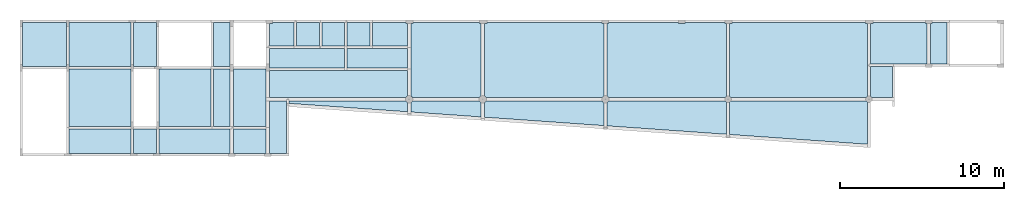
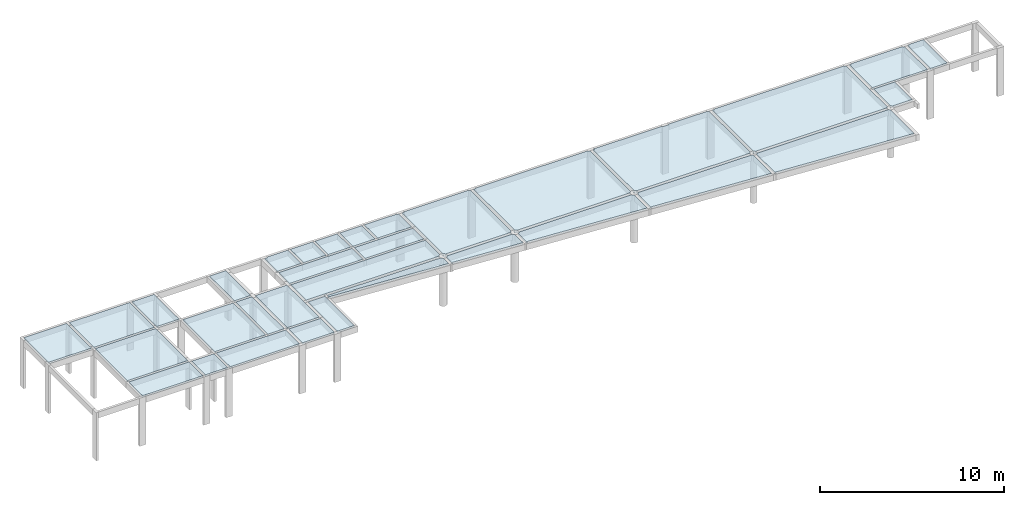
# One storey, part 3 of 3: 33 slabs.
"""IFC2X3 building model written with IfcOpenShell, lengths in centimetres."""

from ifc_helpers import new_model, si_unit, derived_unit, frame, origin, origin_with_axes, place, context, project, spatial, polyline, outline, extrude, material, element, save


model = new_model("IFC2X3")

# Units and contexts
model_context = context("Model", 3, precision=1e-05, world=origin_with_axes(), identifier="Body")
ifc_project = project(units=[si_unit("LENGTHUNIT", "METRE", prefix="CENTI"), si_unit("VOLUMEUNIT", "CUBIC_METRE"), si_unit("AREAUNIT", "SQUARE_METRE"), si_unit("POWERUNIT", "WATT"), si_unit("LUMINOUSFLUXUNIT", "LUMEN"), si_unit("ELECTRICCURRENTUNIT", "AMPERE"), si_unit("PRESSUREUNIT", "PASCAL", prefix="KILO"), si_unit("MASSUNIT", "GRAM", prefix="KILO"), si_unit("PLANEANGLEUNIT", "RADIAN"), derived_unit("VOLUMETRICFLOWRATEUNIT", [(si_unit("LENGTHUNIT", "METRE"), 3), (si_unit("TIMEUNIT", "SECOND"), -1)])], contexts=[model_context])

# Site, building, storey
site_placement = place(None, origin_with_axes())
site = spatial("IfcSite", under=ifc_project, at=site_placement)
building_placement = place(site_placement, origin())
building = spatial("IfcBuilding", under=site, at=building_placement)
placement_1 = place(building_placement, origin_with_axes())
placement_2 = place(placement_1, frame((0.0, 0.0, 80.0), z_axis=(0.0, 0.0, 1.0), x_axis=(1.0, 0.0, 0.0)))
storey_placement = place(placement_2, frame((0.0, 0.0, 320.0), z_axis=(0.0, 0.0, 1.0), x_axis=(1.0, 0.0, 0.0)))
storey = spatial("IfcBuildingStorey", under=building, at=storey_placement, Name="03. Pavimento Superior", CompositionType="ELEMENT", Elevation=400.0)

# Slabs
ifc_material = material(Name="Concreto")
slab_1_placement = place(storey_placement, frame((-1590.46, -424.11, 0.0), z_axis=(0.0, 0.0, 1.0), x_axis=(1.0, 0.0, 0.0)))
element("IfcSlab", 1, at=slab_1_placement, inside=storey, material=ifc_material, Name="L1", PredefinedType="FLOOR", context=model_context, shape_type="SolidModel", body=[
    extrude(outline(polyline([(134.999, -135.0), (135.0, 135.0), (-134.999, 135.0), (-135.0, -134.999), (134.999, -135.0), (134.999, -135.0)])), frame((0.0, 0.0, -12.0), z_axis=(0.0, 0.0, 1.0), x_axis=(1.0, 0.0, 0.0)), (0.0, 0.0, 1.0), 12.0),
])
slab_2_placement = place(storey_placement, frame((863.67, -519.0355, 0.0), z_axis=(0.0, 0.0, 1.0), x_axis=(1.0, 0.0, 0.0)))
element("IfcSlab", 2, at=slab_2_placement, inside=storey, material=ifc_material, Name="L10", PredefinedType="FLOOR", context=model_context, shape_type="SolidModel", body=[
    extrude(outline(polyline([(205.51, -228.675), (209.09, -224.014), (213.75, -220.435), (215.0, -219.919), (215.0, 224.924), (204.869, 224.925), (204.869, 229.924), (-200.13, 229.924), (-200.13, 224.925), (-215.0, 224.924), (-215.0, -219.919), (-213.75, -220.435), (-209.089, -224.014), (-205.51, -228.675), (-204.994, -229.925), (204.994, -229.925), (205.51, -228.675), (205.51, -228.675)])), frame((0.0, 0.0005, -20.0), z_axis=(0.0, 0.0, 1.0), x_axis=(1.0, 0.0, 0.0)), (0.0, 0.0, 1.0), 20.0),
])
slab_3_placement = place(storey_placement, frame((1463.6705, -519.035, 0.0), z_axis=(0.0, 0.0, 1.0), x_axis=(1.0, 0.0, 0.0)))
element("IfcSlab", 3, at=slab_3_placement, inside=storey, material=ifc_material, Name="L11", PredefinedType="FLOOR", context=model_context, shape_type="SolidModel", body=[
    extrude(outline(polyline([(355.51, -228.675), (359.09, -224.014), (363.75, -220.435), (365.0, -219.919), (364.999, 224.924), (354.869, 224.925), (354.869, 229.925), (-350.129, 229.925), (-350.13, 224.925), (-364.999, 224.924), (-364.999, -219.919), (-363.749, -220.435), (-359.09, -224.014), (-355.509, -228.675), (-354.994, -229.925), (354.994, -229.925), (355.51, -228.675), (355.51, -228.675)])), frame((-0.0005, 0.0, -20.0), z_axis=(0.0, 0.0, 1.0), x_axis=(1.0, 0.0, 0.0)), (0.0, 0.0, 1.0), 20.0),
])
slab_4_placement = place(storey_placement, frame((2213.6705, -519.035, 0.0), z_axis=(0.0, 0.0, 1.0), x_axis=(1.0, 0.0, 0.0)))
element("IfcSlab", 4, at=slab_4_placement, inside=storey, material=ifc_material, Name="L12", PredefinedType="FLOOR", context=model_context, shape_type="SolidModel", body=[
    extrude(outline(polyline([(360.86, -225.785), (365.0, -222.605), (365.0, 224.925), (354.869, 224.925), (354.87, 229.924), (111.87, 229.925), (111.869, 224.925), (71.869, 224.925), (71.87, 229.925), (-355.129, 229.925), (-355.13, 224.925), (-364.999, 224.924), (-364.999, -219.919), (-363.749, -220.435), (-359.09, -224.014), (-355.509, -228.675), (-354.994, -229.925), (357.679, -229.925), (360.86, -225.785), (360.86, -225.785)])), frame((-0.0005, 0.0, -20.0), z_axis=(0.0, 0.0, 1.0), x_axis=(1.0, 0.0, 0.0)), (0.0, 0.0, 1.0), 20.0),
])
slab_5_placement = place(storey_placement, frame((3019.1705, -519.035, 0.0), z_axis=(0.0, 0.0, 1.0), x_axis=(1.0, 0.0, 0.0)))
element("IfcSlab", 5, at=slab_5_placement, inside=storey, material=ifc_material, Name="L13", PredefinedType="FLOOR", context=model_context, shape_type="SolidModel", body=[
    extrude(outline(polyline([(416.36, -225.785), (420.5, -222.605), (420.429, -32.575), (420.37, 224.924), (410.369, 224.925), (410.369, 229.925), (-405.63, 229.924), (-405.63, 224.925), (-420.499, 224.925), (-420.499, -222.605), (-416.36, -225.785), (-413.18, -229.925), (413.179, -229.925), (416.36, -225.785), (416.36, -225.785)])), frame((-0.0005, 0.0, -20.0), z_axis=(0.0, 0.0, 1.0), x_axis=(1.0, 0.0, 0.0)), (0.0, 0.0, 1.0), 20.0),
])
slab_6_placement = place(storey_placement, frame((3632.79, -416.61, 0.0), z_axis=(0.0, 0.0, 1.0), x_axis=(1.0, 0.0, 0.0)))
element("IfcSlab", 6, at=slab_6_placement, inside=storey, material=ifc_material, Name="L14", PredefinedType="FLOOR", context=model_context, shape_type="SolidModel", body=[
    extrude(outline(polyline([(173.24865451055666, -127.499), (173.24865451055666, 122.5), (163.24865451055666, 122.499), (163.24965451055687, 127.5), (-158.24934548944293, 127.499), (-158.25034548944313, 122.499), (-173.24934548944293, 122.499), (-173.19134548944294, -127.5), (173.24865451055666, -127.499), (173.24865451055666, -127.499)])), frame((0.000345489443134, 0.0, -12.0), z_axis=(0.0, 0.0, 1.0), x_axis=(1.0, 0.0, 0.0)), (0.0, 0.0, 1.0), 12.0),
])
slab_7_placement = place(storey_placement, frame((3877.29, -416.61, 0.0), z_axis=(0.0, 0.0, 1.0), x_axis=(1.0, 0.0, 0.0)))
element("IfcSlab", 7, at=slab_7_placement, inside=storey, material=ifc_material, Name="L15", PredefinedType="FLOOR", context=model_context, shape_type="SolidModel", body=[
    extrude(outline(polyline([(51.25, -127.046), (51.25, 127.5), (-41.25, 127.499), (-41.25, 122.499), (-51.25, 122.5), (-51.25, -127.499), (-41.25, -127.5), (51.25, -127.046), (51.25, -127.046)])), frame((0.0, 0.0, -12.0), z_axis=(0.0, 0.0, 1.0), x_axis=(1.0, 0.0, 0.0)), (0.0, 0.0, 1.0), 12.0),
])
slab_8_placement = place(storey_placement, frame((14.5395, -507.86, 0.0), z_axis=(0.0, 0.0, 1.0), x_axis=(1.0, 0.0, 0.0)))
element("IfcSlab", 8, at=slab_8_placement, inside=storey, material=ifc_material, Name="L16", PredefinedType="FLOOR", context=model_context, shape_type="SolidModel", body=[
    extrude(outline(polyline([(229.999, 58.75), (-230.0, 58.749), (-230.0, -58.75), (229.999, -58.75), (229.999, 58.75), (229.999, 58.75)])), frame((0.0005, 0.0, -12.0), z_axis=(0.0, 0.0, 1.0), x_axis=(1.0, 0.0, 0.0)), (0.0, 0.0, 1.0), 12.0),
])
slab_9_placement = place(storey_placement, frame((444.105, -507.8605, 0.0), z_axis=(0.0, 0.0, 1.0), x_axis=(1.0, 0.0, 0.0)))
element("IfcSlab", 9, at=slab_9_placement, inside=storey, material=ifc_material, Name="L17", PredefinedType="FLOOR", context=model_context, shape_type="SolidModel", body=[
    extrude(outline(polyline([(184.564, 58.749), (-184.564, 58.749), (-184.564, -58.75), (184.564, -58.75), (184.564, 58.749), (184.564, 58.749)])), frame((0.0, 0.0005, -12.0), z_axis=(0.0, 0.0, 1.0), x_axis=(1.0, 0.0, 0.0)), (0.0, 0.0, 1.0), 12.0),
])
slab_10_placement = place(storey_placement, frame((-1250.46, -749.11, 0.0), z_axis=(0.0, 0.0, 1.0), x_axis=(1.0, 0.0, 0.0)))
element("IfcSlab", 10, at=slab_10_placement, inside=storey, material=ifc_material, Name="L18", PredefinedType="FLOOR", context=model_context, shape_type="SolidModel", body=[
    extrude(outline(polyline([(190.0, -175.0), (189.999, 174.999), (-190.0, 175.0), (-190.0, -175.0), (190.0, -175.0), (190.0, -175.0)])), frame((0.0, 0.0, -12.0), z_axis=(0.0, 0.0, 1.0), x_axis=(1.0, 0.0, 0.0)), (0.0, 0.0, 1.0), 12.0),
])
slab_11_placement = place(storey_placement, frame((-731.7105, -749.11, 0.0), z_axis=(0.0, 0.0, 1.0), x_axis=(1.0, 0.0, 0.0)))
element("IfcSlab", 11, at=slab_11_placement, inside=storey, material=ifc_material, Name="L19", PredefinedType="FLOOR", context=model_context, shape_type="SolidModel", body=[
    extrude(outline(polyline([(158.749, 175.0), (-158.75, 174.999), (-158.75, -175.0), (158.749, -175.0), (158.749, 175.0), (158.749, 175.0)])), frame((0.0005, 0.0, -12.0), z_axis=(0.0, 0.0, 1.0), x_axis=(1.0, 0.0, 0.0)), (0.0, 0.0, 1.0), 12.0),
])
slab_12_placement = place(storey_placement, frame((-1250.4605, -424.1105, 0.0), z_axis=(0.0, 0.0, 1.0), x_axis=(1.0, 0.0, 0.0)))
element("IfcSlab", 12, at=slab_12_placement, inside=storey, material=ifc_material, Name="L2", PredefinedType="FLOOR", context=model_context, shape_type="SolidModel", body=[
    extrude(outline(polyline([(189.999, 134.53), (177.499, 134.53), (177.5, 134.999), (-190.0, 134.999), (-189.999, -135.0), (189.999, -135.0), (189.999, 134.53), (189.999, 134.53)])), frame((0.0005, 0.0005, -12.0), z_axis=(0.0, 0.0, 1.0), x_axis=(1.0, 0.0, 0.0)), (0.0, 0.0, 1.0), 12.0),
])
slab_13_placement = place(storey_placement, frame((-506.7095, -749.1095, 0.0), z_axis=(0.0, 0.0, 1.0), x_axis=(1.0, 0.0, 0.0)))
element("IfcSlab", 13, at=slab_13_placement, inside=storey, material=ifc_material, Name="L20", PredefinedType="FLOOR", context=model_context, shape_type="SolidModel", body=[
    extrude(outline(polyline([(51.249, -174.999), (51.25, 175.0), (-51.249, 175.0), (-51.249, -174.999), (51.249, -174.999), (51.249, -174.999)])), frame((-0.0005, -0.0005, -12.0), z_axis=(0.0, 0.0, 1.0), x_axis=(1.0, 0.0, 0.0)), (0.0, 0.0, 1.0), 12.0),
])
slab_14_placement = place(storey_placement, frame((-335.4595, -749.11, 0.0), z_axis=(0.0, 0.0, 1.0), x_axis=(1.0, 0.0, 0.0)))
element("IfcSlab", 14, at=slab_14_placement, inside=storey, material=ifc_material, Name="L21", PredefinedType="FLOOR", context=model_context, shape_type="SolidModel", body=[
    extrude(outline(polyline([(99.999, -175.0), (100.0, 175.0), (-99.999, 175.0), (-99.999, -175.0), (99.999, -175.0), (99.999, -175.0)])), frame((-0.0005, 0.0, -12.0), z_axis=(0.0, 0.0, 1.0), x_axis=(1.0, 0.0, 0.0)), (0.0, 0.0, 1.0), 12.0),
])
slab_15_placement = place(storey_placement, frame((206.605, -665.2855, 0.0), z_axis=(0.0, 0.0, 1.0), x_axis=(1.0, 0.0, 0.0)))
element("IfcSlab", 15, at=slab_15_placement, inside=storey, material=ifc_material, Name="L22", PredefinedType="FLOOR", context=model_context, shape_type="SolidModel", body=[
    extrude(outline(polyline([(412.574, -82.425), (416.155, -77.764), (420.814, -74.185), (422.064, -73.669), (422.065, 83.674), (-422.064, 83.674), (-422.065, -83.674), (412.059, -83.675), (412.574, -82.425), (412.574, -82.425)])), frame((0.0, 0.0005, -12.0), z_axis=(0.0, 0.0, 1.0), x_axis=(1.0, 0.0, 0.0)), (0.0, 0.0, 1.0), 12.0),
])
slab_16_placement = place(storey_placement, frame((3526.071, -654.035, 0.0), z_axis=(0.0, 0.0, 1.0), x_axis=(1.0, 0.0, 0.0)))
element("IfcSlab", 16, at=slab_16_placement, inside=storey, material=ifc_material, Name="L23", PredefinedType="FLOOR", context=model_context, shape_type="SolidModel", body=[
    extrude(outline(polyline([(66.46764010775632, -94.924), (66.46764010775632, 94.924), (-66.46835989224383, 94.925), (-66.40035989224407, -87.604), (-62.261359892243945, -90.785), (-59.08135989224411, -94.925), (66.46764010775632, -94.924), (66.46764010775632, -94.924)])), frame((0.000359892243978, 0.0, -12.0), z_axis=(0.0, 0.0, 1.0), x_axis=(1.0, 0.0, 0.0)), (0.0, 0.0, 1.0), 12.0),
])
slab_17_placement = place(storey_placement, frame((-162.6105, -929.0305, 0.0), z_axis=(0.0, 0.0, 1.0), x_axis=(1.0, 0.0, 0.0)))
element("IfcSlab", 17, at=slab_17_placement, inside=storey, material=ifc_material, Name="L24", PredefinedType="FLOOR", context=model_context, shape_type="SolidModel", body=[
    extrude(outline(polyline([(52.849, 135.37), (52.349, 160.069), (-52.85, 160.069), (-52.85, -160.069), (52.167, -160.07), (52.849, 135.37), (52.849, 135.37)])), frame((0.0005, 0.0005, -12.0), z_axis=(0.0, 0.0, 1.0), x_axis=(1.0, 0.0, 0.0)), (0.0, 0.0, 1.0), 12.0),
])
slab_18_placement = place(storey_placement, frame((266.708, -802.072, 0.0), z_axis=(0.0, 0.0, 1.0), x_axis=(1.0, 0.0, 0.0)))
element("IfcSlab", 18, at=slab_18_placement, inside=storey, material=ifc_material, Name="L25", PredefinedType="FLOOR", context=model_context, shape_type="SolidModel", body=[
    extrude(outline(polyline([(361.96244515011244, 23.106215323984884), (360.71144515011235, 23.62121532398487), (356.05244515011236, 27.20121532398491), (352.47144515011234, 31.86121532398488), (351.95644515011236, 33.112215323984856), (-361.96155484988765, 33.112215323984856), (-361.65655484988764, 17.985215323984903), (361.96244515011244, -33.11178467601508), (361.96244515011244, 23.106215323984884), (361.96244515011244, 23.106215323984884)])), frame((-0.000445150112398, -0.000215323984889, -12.0), z_axis=(0.0, 0.0, 1.0), x_axis=(1.0, 0.0, 0.0)), (0.0, 0.0, 1.0), 12.0),
])
slab_19_placement = place(storey_placement, frame((863.6705, -817.9625, 0.0), z_axis=(0.0, 0.0, 1.0), x_axis=(1.0, 0.0, 0.0)))
element("IfcSlab", 19, at=slab_19_placement, inside=storey, material=ifc_material, Name="L26", PredefinedType="FLOOR", context=model_context, shape_type="SolidModel", body=[
    extrude(outline(polyline([(215.0, 38.996171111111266), (213.75, 39.51117111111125), (209.09, 43.091171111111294), (205.51, 47.75117111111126), (204.994, 49.00117111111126), (-204.994, 49.00117111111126), (-205.51, 47.75117111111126), (-209.089, 43.091171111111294), (-213.75, 39.51117111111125), (-214.999, 38.996171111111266), (-214.999, -18.63382888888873), (215.0, -49.00182888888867), (215.0, 38.996171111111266), (215.0, 38.996171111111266)])), frame((-0.0005, 0.000328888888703, -12.0), z_axis=(0.0, 0.0, 1.0), x_axis=(1.0, 0.0, 0.0)), (0.0, 0.0, 1.0), 12.0),
])
slab_20_placement = place(storey_placement, frame((1463.67, -844.447, 0.0), z_axis=(0.0, 0.0, 1.0), x_axis=(1.0, 0.0, 0.0)))
element("IfcSlab", 20, at=slab_20_placement, inside=storey, material=ifc_material, Name="L27", PredefinedType="FLOOR", context=model_context, shape_type="SolidModel", body=[
    extrude(outline(polyline([(365.0, 65.4811473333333), (363.75, 65.99614733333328), (359.09, 69.5771473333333), (355.51, 74.23614733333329), (354.994, 75.48714733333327), (-354.994, 75.48714733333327), (-355.509, 74.23614733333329), (-359.09, 69.5771473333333), (-363.749, 65.99614733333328), (-365.0, 65.4811473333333), (-365.0, -23.92885266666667), (365.0, -75.48685266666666), (365.0, 65.4811473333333), (365.0, 65.4811473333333)])), frame((0.0, -0.000147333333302, -12.0), z_axis=(0.0, 0.0, 1.0), x_axis=(1.0, 0.0, 0.0)), (0.0, 0.0, 1.0), 12.0),
])
slab_21_placement = place(storey_placement, frame((2213.67, -870.932, 0.0), z_axis=(0.0, 0.0, 1.0), x_axis=(1.0, 0.0, 0.0)))
element("IfcSlab", 21, at=slab_21_placement, inside=storey, material=ifc_material, Name="L28", PredefinedType="FLOOR", context=model_context, shape_type="SolidModel", body=[
    extrude(outline(polyline([(365.0, 94.65214733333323), (360.86, 97.8311473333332), (357.679, 101.97114733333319), (-354.994, 101.97214733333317), (-355.509, 100.72114733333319), (-359.09, 96.0621473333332), (-363.749, 92.48114733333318), (-365.0, 91.9661473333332), (-365.0, -50.4138526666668), (365.0, -101.97185266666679), (365.0, 94.65214733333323), (365.0, 94.65214733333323)])), frame((0.0, -0.000147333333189, -12.0), z_axis=(0.0, 0.0, 1.0), x_axis=(1.0, 0.0, 0.0)), (0.0, 0.0, 1.0), 12.0),
])
slab_22_placement = place(storey_placement, frame((3019.506, -901.3565, 0.0), z_axis=(0.0, 0.0, 1.0), x_axis=(1.0, 0.0, 0.0)))
element("IfcSlab", 22, at=slab_22_placement, inside=storey, material=ifc_material, Name="L29", PredefinedType="FLOOR", context=model_context, shape_type="SolidModel", body=[
    extrude(outline(polyline([(420.16404955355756, 125.07621107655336), (416.02404955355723, 128.25521107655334), (412.84304955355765, 132.39521107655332), (-413.51595044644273, 132.39521107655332), (-416.69595044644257, 128.25521107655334), (-420.8349504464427, 125.07621107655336), (-420.8349504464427, -72.9597889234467), (420.8350495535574, -132.39578892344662), (420.16404955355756, 125.07621107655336), (420.16404955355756, 125.07621107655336)])), frame((-4.9553557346e-05, 0.000288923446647, -12.0), z_axis=(0.0, 0.0, 1.0), x_axis=(1.0, 0.0, 0.0)), (0.0, 0.0, 1.0), 12.0),
])
slab_23_placement = place(storey_placement, frame((-975.46, -424.11, 0.0), z_axis=(0.0, 0.0, 1.0), x_axis=(1.0, 0.0, 0.0)))
element("IfcSlab", 23, at=slab_23_placement, inside=storey, material=ifc_material, Name="L3", PredefinedType="FLOOR", context=model_context, shape_type="SolidModel", body=[
    extrude(outline(polyline([(69.999, -134.999), (70.0, 134.999), (-57.5, 134.999), (-57.5, 134.53), (-70.0, 134.53), (-69.999, -134.999), (69.999, -134.999), (69.999, -134.999)])), frame((0.0, 0.0, -12.0), z_axis=(0.0, 0.0, 1.0), x_axis=(1.0, 0.0, 0.0)), (0.0, 0.0, 1.0), 12.0),
])
slab_24_placement = place(storey_placement, frame((-1250.4605, -1014.1105, 0.0), z_axis=(0.0, 0.0, 1.0), x_axis=(1.0, 0.0, 0.0)))
element("IfcSlab", 24, at=slab_24_placement, inside=storey, material=ifc_material, Name="L30", PredefinedType="FLOOR", context=model_context, shape_type="SolidModel", body=[
    extrude(outline(polyline([(-190.0, -75.0), (189.999, -74.989), (189.999, 74.999), (-190.0, 74.999), (-190.0, -75.0), (-190.0, -75.0)])), frame((0.0005, 0.0005, -12.0), z_axis=(0.0, 0.0, 1.0), x_axis=(1.0, 0.0, 0.0)), (0.0, 0.0, 1.0), 12.0),
])
slab_25_placement = place(storey_placement, frame((-975.46, -1014.105, 0.0), z_axis=(0.0, 0.0, 1.0), x_axis=(1.0, 0.0, 0.0)))
element("IfcSlab", 25, at=slab_25_placement, inside=storey, material=ifc_material, Name="L31", PredefinedType="FLOOR", context=model_context, shape_type="SolidModel", body=[
    extrude(outline(polyline([(69.999, 74.994), (-70.0, 74.994), (-69.999, -74.994), (70.0, -74.994), (69.999, 74.994), (69.999, 74.994)])), frame((0.0, 0.0, -12.0), z_axis=(0.0, 0.0, 1.0), x_axis=(1.0, 0.0, 0.0)), (0.0, 0.0, 1.0), 12.0),
])
slab_26_placement = place(storey_placement, frame((-672.96, -1014.105, 0.0), z_axis=(0.0, 0.0, 1.0), x_axis=(1.0, 0.0, 0.0)))
element("IfcSlab", 26, at=slab_26_placement, inside=storey, material=ifc_material, Name="L32", PredefinedType="FLOOR", context=model_context, shape_type="SolidModel", body=[
    extrude(outline(polyline([(217.5, 74.994), (-217.5, 74.994), (-217.499, -74.994), (217.5, -74.994), (217.5, 74.994), (217.5, 74.994)])), frame((0.0, 0.0, -12.0), z_axis=(0.0, 0.0, 1.0), x_axis=(1.0, 0.0, 0.0)), (0.0, 0.0, 1.0), 12.0),
])
slab_27_placement = place(storey_placement, frame((-335.4595, -1014.1045, 0.0), z_axis=(0.0, 0.0, 1.0), x_axis=(1.0, 0.0, 0.0)))
element("IfcSlab", 27, at=slab_27_placement, inside=storey, material=ifc_material, Name="L33", PredefinedType="FLOOR", context=model_context, shape_type="SolidModel", body=[
    extrude(outline(polyline([(100.0, 74.995), (-99.999, 74.995), (-99.999, -74.994), (100.0, -74.994), (100.0, 74.995), (100.0, 74.995)])), frame((-0.0005, -0.0005, -12.0), z_axis=(0.0, 0.0, 1.0), x_axis=(1.0, 0.0, 0.0)), (0.0, 0.0, 1.0), 12.0),
])
slab_28_placement = place(storey_placement, frame((-506.71, -424.11, 0.0), z_axis=(0.0, 0.0, 1.0), x_axis=(1.0, 0.0, 0.0)))
element("IfcSlab", 28, at=slab_28_placement, inside=storey, material=ifc_material, Name="L4", PredefinedType="FLOOR", context=model_context, shape_type="SolidModel", body=[
    extrude(outline(polyline([(51.25, -135.0), (51.249, 135.0), (-51.25, 135.0), (-51.25, -135.0), (51.25, -135.0), (51.25, -135.0)])), frame((0.0, 0.0, -12.0), z_axis=(0.0, 0.0, 1.0), x_axis=(1.0, 0.0, 0.0)), (0.0, 0.0, 1.0), 12.0),
])
slab_29_placement = place(storey_placement, frame((-140.46, -361.6105, 0.0), z_axis=(0.0, 0.0, 1.0), x_axis=(1.0, 0.0, 0.0)))
element("IfcSlab", 29, at=slab_29_placement, inside=storey, material=ifc_material, Name="L5", PredefinedType="FLOOR", context=model_context, shape_type="SolidModel", body=[
    extrude(outline(polyline([(75.0, 72.499), (-54.999, 72.499), (-55.0, 67.499), (-75.0, 67.5), (-75.0, -72.5), (75.0, -72.5), (75.0, 72.499), (75.0, 72.499)])), frame((0.0, 0.0005, -12.0), z_axis=(0.0, 0.0, 1.0), x_axis=(1.0, 0.0, 0.0)), (0.0, 0.0, 1.0), 12.0),
])
slab_30_placement = place(storey_placement, frame((19.54, -361.6105, 0.0), z_axis=(0.0, 0.0, 1.0), x_axis=(1.0, 0.0, 0.0)))
element("IfcSlab", 30, at=slab_30_placement, inside=storey, material=ifc_material, Name="L6", PredefinedType="FLOOR", context=model_context, shape_type="SolidModel", body=[
    extrude(outline(polyline([(70.0, 72.499), (-70.0, 72.499), (-70.0, -72.5), (69.999, -72.5), (70.0, 72.499), (70.0, 72.499)])), frame((0.0, 0.0005, -12.0), z_axis=(0.0, 0.0, 1.0), x_axis=(1.0, 0.0, 0.0)), (0.0, 0.0, 1.0), 12.0),
])
slab_31_placement = place(storey_placement, frame((174.5395, -361.6105, 0.0), z_axis=(0.0, 0.0, 1.0), x_axis=(1.0, 0.0, 0.0)))
element("IfcSlab", 31, at=slab_31_placement, inside=storey, material=ifc_material, Name="L7", PredefinedType="FLOOR", context=model_context, shape_type="SolidModel", body=[
    extrude(outline(polyline([(69.999, 72.499), (-70.0, 72.499), (-70.0, -72.5), (69.999, -72.5), (69.999, 72.499), (69.999, 72.499)])), frame((0.0005, 0.0005, -12.0), z_axis=(0.0, 0.0, 1.0), x_axis=(1.0, 0.0, 0.0)), (0.0, 0.0, 1.0), 12.0),
])
slab_32_placement = place(storey_placement, frame((329.54, -361.6095, 0.0), z_axis=(0.0, 0.0, 1.0), x_axis=(1.0, 0.0, 0.0)))
element("IfcSlab", 32, at=slab_32_placement, inside=storey, material=ifc_material, Name="L8", PredefinedType="FLOOR", context=model_context, shape_type="SolidModel", body=[
    extrude(outline(polyline([(70.0, 72.5), (-70.0, 72.5), (-70.0, -72.499), (70.0, -72.499), (70.0, 72.5), (70.0, 72.5)])), frame((0.0, -0.0005, -12.0), z_axis=(0.0, 0.0, 1.0), x_axis=(1.0, 0.0, 0.0)), (0.0, 0.0, 1.0), 12.0),
])
slab_33_placement = place(storey_placement, frame((521.605, -361.61, 0.0), z_axis=(0.0, 0.0, 1.0), x_axis=(1.0, 0.0, 0.0)))
element("IfcSlab", 33, at=slab_33_placement, inside=storey, material=ifc_material, Name="L9", PredefinedType="FLOOR", context=model_context, shape_type="SolidModel", body=[
    extrude(outline(polyline([(107.065, 67.499), (96.934, 67.499), (96.934, 72.499), (-107.065, 72.499), (-107.065, -72.499), (107.065, -72.499), (107.065, 67.499), (107.065, 67.499)])), frame((0.0, 0.0, -12.0), z_axis=(0.0, 0.0, 1.0), x_axis=(1.0, 0.0, 0.0)), (0.0, 0.0, 1.0), 12.0),
])

save(model, "model.ifc")
